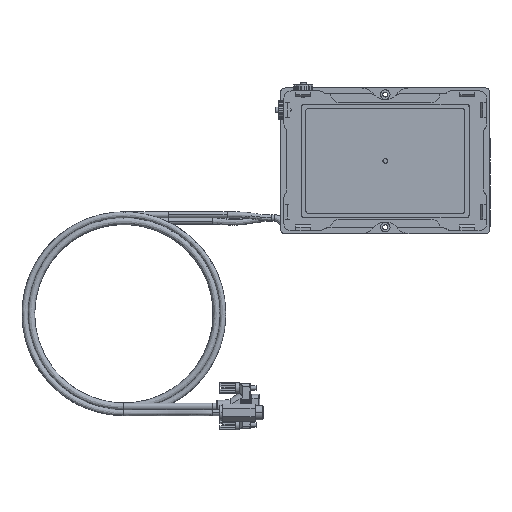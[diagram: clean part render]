
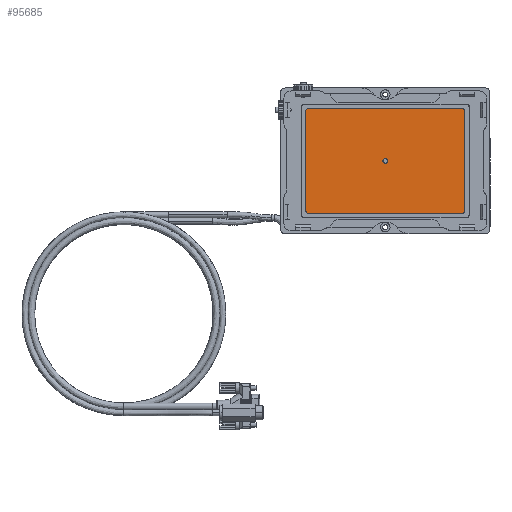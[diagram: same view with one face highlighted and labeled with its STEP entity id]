
A CAD part, front view. The second image highlights one B-rep face of the part: STEP entity #95685.
In plain terms, the highlighted planar face has unit normal (0, -1, 0).
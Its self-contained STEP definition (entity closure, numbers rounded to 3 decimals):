
#258 = VECTOR ( 'NONE', #65317, 1000. ) ;
#1780 = DIRECTION ( 'NONE',  ( 0., 0., 1. ) ) ;
#3645 = DIRECTION ( 'NONE',  ( 0., -1., 0. ) ) ;
#8354 = CARTESIAN_POINT ( 'NONE',  ( 0., -52.1, 0. ) ) ;
#9808 = DIRECTION ( 'NONE',  ( 0., 0., -1. ) ) ;
#13991 = CARTESIAN_POINT ( 'NONE',  ( -52., -52.1, -35.65 ) ) ;
#14725 = DIRECTION ( 'NONE',  ( 0., 0., -1. ) ) ;
#15046 = AXIS2_PLACEMENT_3D ( 'NONE', #62172, #3645, #133521 ) ;
#17245 = CIRCLE ( 'NONE', #51223, 2. ) ;
#18725 = CARTESIAN_POINT ( 'NONE',  ( -54., -52.1, -33.65 ) ) ;
#18953 = LINE ( 'NONE', #13991, #99846 ) ;
#20181 = DIRECTION ( 'NONE',  ( 0., 0., -1. ) ) ;
#21182 = VECTOR ( 'NONE', #9808, 1000. ) ;
#22118 = VERTEX_POINT ( 'NONE', #33355 ) ;
#22331 = LINE ( 'NONE', #135129, #258 ) ;
#22970 = EDGE_CURVE ( 'NONE', #25000, #59134, #105664, .T. ) ;
#23162 = DIRECTION ( 'NONE',  ( 0., 0., -1. ) ) ;
#23976 = DIRECTION ( 'NONE',  ( 0., 0., -1. ) ) ;
#25000 = VERTEX_POINT ( 'NONE', #146561 ) ;
#25830 = DIRECTION ( 'NONE',  ( 1., 0., 0. ) ) ;
#26029 = VERTEX_POINT ( 'NONE', #32007 ) ;
#29532 = CIRCLE ( 'NONE', #64062, 1.6 ) ;
#30330 = CARTESIAN_POINT ( 'NONE',  ( -54., -52.1, 33.65 ) ) ;
#32007 = CARTESIAN_POINT ( 'NONE',  ( 0., -52.1, -1.6 ) ) ;
#33341 = DIRECTION ( 'NONE',  ( 0., -1., 0. ) ) ;
#33355 = CARTESIAN_POINT ( 'NONE',  ( 54., -52.1, 33.65 ) ) ;
#36401 = CARTESIAN_POINT ( 'NONE',  ( 54., -52.1, -33.65 ) ) ;
#37367 = CARTESIAN_POINT ( 'NONE',  ( 52., -52.1, -33.65 ) ) ;
#38481 = LINE ( 'NONE', #106939, #135876 ) ;
#40273 = CIRCLE ( 'NONE', #15046, 2. ) ;
#42345 = CARTESIAN_POINT ( 'NONE',  ( -52., -52.1, 33.65 ) ) ;
#44050 = DIRECTION ( 'NONE',  ( 0., 0., -1. ) ) ;
#47371 = FACE_OUTER_BOUND ( 'NONE', #60041, .T. ) ;
#48397 = CIRCLE ( 'NONE', #143492, 1.6 ) ;
#51223 = AXIS2_PLACEMENT_3D ( 'NONE', #42345, #124534, #147176 ) ;
#52189 = EDGE_CURVE ( 'NONE', #61413, #25000, #17245, .T. ) ;
#52322 = ORIENTED_EDGE ( 'NONE', *, *, #109937, .T. ) ;
#55737 = ORIENTED_EDGE ( 'NONE', *, *, #52189, .T. ) ;
#56392 = ORIENTED_EDGE ( 'NONE', *, *, #94679, .F. ) ;
#57646 = EDGE_CURVE ( 'NONE', #26029, #110349, #48397, .T. ) ;
#58340 = ORIENTED_EDGE ( 'NONE', *, *, #73953, .T. ) ;
#58792 = CIRCLE ( 'NONE', #148262, 2. ) ;
#58843 = AXIS2_PLACEMENT_3D ( 'NONE', #81125, #70849, #23162 ) ;
#59134 = VERTEX_POINT ( 'NONE', #18725 ) ;
#60041 = EDGE_LOOP ( 'NONE', ( #52322, #133041, #96350, #58340, #55737, #117269, #129081, #136432 ) ) ;
#61413 = VERTEX_POINT ( 'NONE', #113849 ) ;
#62172 = CARTESIAN_POINT ( 'NONE',  ( 52., -52.1, 33.65 ) ) ;
#64062 = AXIS2_PLACEMENT_3D ( 'NONE', #82429, #94253, #23976 ) ;
#65317 = DIRECTION ( 'NONE',  ( -1., 0., 0. ) ) ;
#68309 = VERTEX_POINT ( 'NONE', #36401 ) ;
#70849 = DIRECTION ( 'NONE',  ( 0., -1., 0. ) ) ;
#73953 = EDGE_CURVE ( 'NONE', #148542, #61413, #22331, .T. ) ;
#77396 = EDGE_CURVE ( 'NONE', #86008, #82364, #18953, .T. ) ;
#81125 = CARTESIAN_POINT ( 'NONE',  ( 52., -52.1, -33.65 ) ) ;
#82364 = VERTEX_POINT ( 'NONE', #142438 ) ;
#82429 = CARTESIAN_POINT ( 'NONE',  ( 0., -52.1, 0. ) ) ;
#83794 = ORIENTED_EDGE ( 'NONE', *, *, #57646, .F. ) ;
#86008 = VERTEX_POINT ( 'NONE', #110496 ) ;
#90497 = DIRECTION ( 'NONE',  ( 0., -1., 0. ) ) ;
#93951 = PLANE ( 'NONE',  #58843 ) ;
#94253 = DIRECTION ( 'NONE',  ( 0., -1., 0. ) ) ;
#94679 = EDGE_CURVE ( 'NONE', #110349, #26029, #29532, .T. ) ;
#95142 = EDGE_CURVE ( 'NONE', #68309, #22118, #38481, .T. ) ;
#95685 = ADVANCED_FACE ( 'NONE', ( #96873, #47371 ), #93951, .T. ) ;
#96350 = ORIENTED_EDGE ( 'NONE', *, *, #143566, .T. ) ;
#96622 = CIRCLE ( 'NONE', #97711, 2. ) ;
#96873 = FACE_BOUND ( 'NONE', #140277, .T. ) ;
#97711 = AXIS2_PLACEMENT_3D ( 'NONE', #37367, #109720, #14725 ) ;
#99846 = VECTOR ( 'NONE', #25830, 1000. ) ;
#105664 = LINE ( 'NONE', #30330, #21182 ) ;
#106939 = CARTESIAN_POINT ( 'NONE',  ( 54., -52.1, -33.65 ) ) ;
#109720 = DIRECTION ( 'NONE',  ( 0., -1., 0. ) ) ;
#109937 = EDGE_CURVE ( 'NONE', #82364, #68309, #96622, .T. ) ;
#110349 = VERTEX_POINT ( 'NONE', #128562 ) ;
#110496 = CARTESIAN_POINT ( 'NONE',  ( -52., -52.1, -35.65 ) ) ;
#113849 = CARTESIAN_POINT ( 'NONE',  ( -52., -52.1, 35.65 ) ) ;
#117269 = ORIENTED_EDGE ( 'NONE', *, *, #22970, .T. ) ;
#124534 = DIRECTION ( 'NONE',  ( 0., -1., 0. ) ) ;
#127203 = CARTESIAN_POINT ( 'NONE',  ( -52., -52.1, -33.65 ) ) ;
#128562 = CARTESIAN_POINT ( 'NONE',  ( 0., -52.1, 1.6 ) ) ;
#129081 = ORIENTED_EDGE ( 'NONE', *, *, #147094, .T. ) ;
#133041 = ORIENTED_EDGE ( 'NONE', *, *, #95142, .T. ) ;
#133521 = DIRECTION ( 'NONE',  ( 0., 0., -1. ) ) ;
#135129 = CARTESIAN_POINT ( 'NONE',  ( 52., -52.1, 35.65 ) ) ;
#135876 = VECTOR ( 'NONE', #1780, 1000. ) ;
#136432 = ORIENTED_EDGE ( 'NONE', *, *, #77396, .T. ) ;
#139461 = CARTESIAN_POINT ( 'NONE',  ( 52., -52.1, 35.65 ) ) ;
#140277 = EDGE_LOOP ( 'NONE', ( #83794, #56392 ) ) ;
#142438 = CARTESIAN_POINT ( 'NONE',  ( 52., -52.1, -35.65 ) ) ;
#143492 = AXIS2_PLACEMENT_3D ( 'NONE', #8354, #90497, #20181 ) ;
#143566 = EDGE_CURVE ( 'NONE', #22118, #148542, #40273, .T. ) ;
#146561 = CARTESIAN_POINT ( 'NONE',  ( -54., -52.1, 33.65 ) ) ;
#147094 = EDGE_CURVE ( 'NONE', #59134, #86008, #58792, .T. ) ;
#147176 = DIRECTION ( 'NONE',  ( 0., 0., -1. ) ) ;
#148262 = AXIS2_PLACEMENT_3D ( 'NONE', #127203, #33341, #44050 ) ;
#148542 = VERTEX_POINT ( 'NONE', #139461 ) ;
